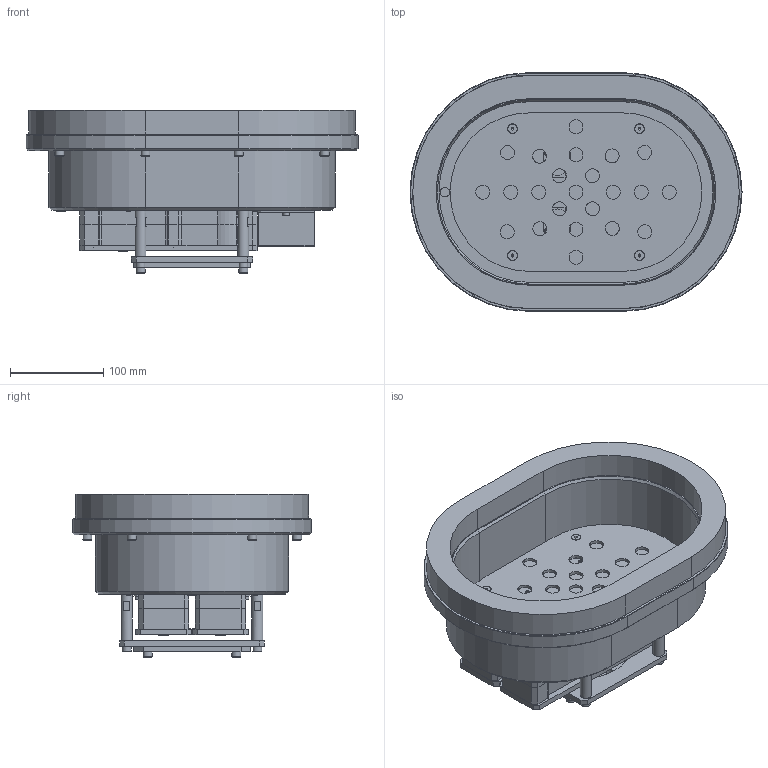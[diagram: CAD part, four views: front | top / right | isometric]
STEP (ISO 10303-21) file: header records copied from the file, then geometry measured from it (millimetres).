
FILE_DESCRIPTION(('STEP AP214'),'1');
FILE_NAME('SGP-H2A-250X350-CRT30.stp','2023-05-31T07:22:49',(' '),(' '),'Spatial InterOp 3D',' ',' ');
FILE_SCHEMA(('AUTOMOTIVE_DESIGN { 1 0 10303 214 1 1 1 1 }'));
Length unit declared in the file: millimetre
Products named in the file (126): SGP-H2A-250X350-CRT30; Body; SGP CVZ Assy; プラグ; SGP-_____; CTX-0418-3000; CTX-0418-3001; CTX-0418-3002; RTWS13; M4*45; _FCBS4-40-10; M4*45_____; SGP-000-3050(供給ベース); CVZ-015-3002; SGP-000-3101(Vフィルタ); SGP-000-3101(Vフィルタ押さえ板); _NKJ3-4; shaft 01; CBSTS6-12; Stopper; Base; CB6; ねじ : 穴付き - M6.0 x 12.0; SGP-000-3302 FLプレートA; Ring; Pad; ねじ: 穴付き - M6.0 x 10.0; SETGR12-50; Cover; CB4; ねじ: 穴付き - M4.0 x 8.0
Assembly tree (125 placements, depth 5):
  SGP-H2A-250X350-CRT30
    Body
    SGP CVZ Assy
      プラグ
      SGP-_____
        CTX-0418-3000
        CTX-0418-3001
        CTX-0418-3002
        CTX-0418-3002
        RTWS13
      SGP-_____
        CTX-0418-3000
        CTX-0418-3001
        CTX-0418-3002
        CTX-0418-3002
        RTWS13
      M4*45_____
        M4*45
          _FCBS4-40-10
        M4*45
          _FCBS4-40-10
        M4*45
          _FCBS4-40-10
        M4*45
          _FCBS4-40-10
        M4*45
          _FCBS4-40-10
        M4*45
          _FCBS4-40-10
      SGP-000-3050(供給ベース)
      CVZ-015-3002
      CVZ-015-3002
    SGP CVZ Assy
      プラグ
      SGP-_____
        CTX-0418-3000
        CTX-0418-3001
        CTX-0418-3002
        CTX-0418-3002
        RTWS13
      SGP-_____
        CTX-0418-3000
        CTX-0418-3001
        CTX-0418-3002
        CTX-0418-3002
        RTWS13
      M4*45_____
        M4*45
          _FCBS4-40-10
        M4*45
          _FCBS4-40-10
        M4*45
          _FCBS4-40-10
        M4*45
          _FCBS4-40-10
        M4*45
          _FCBS4-40-10
        M4*45
          _FCBS4-40-10
      SGP-000-3050(供給ベース)
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Bounding box: 356 x 256 x 174.82 mm (x, y, z)
Volume: 2513369.5 mm3; surface area: 900777 mm2
Topology: 90 solids, 90 shells, 2052 faces, 4868 edges, 3187 vertices
Faces by surface type: plane 1153, cylinder 691, cone 176, torus 24, sphere 8
Full cylindrical faces by diameter (mm): 1.5 x8, 2.693 x8, 3 x24, 3.5 x16, 4 x50, 4.4 x4, 4.5 x24, 4.917 x4, 5 x11, 5.5 x4, 6 x41, 6.6 x8, 6.9 x2, 7 x28, 8 x4, 9 x24, 9.4 x4, 9.87 x16, 10 x10, 10.5 x4, 11.4 x4, 11.8 x4, 12 x18, 13 x20, 13.6 x8, 13.85 x8, 14.5 x8, 14.8 x4, 15 x39, 16 x8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
Entity records: 76779 total; most frequent: CARTESIAN_POINT 10599, DIRECTION 10178, ORIENTED_EDGE 8152, EDGE_CURVE 4076, AXIS2_PLACEMENT_3D 3945, EDGE_LOOP 3336, VERTEX_POINT 3054, FACE_OUTER_BOUND 2509
